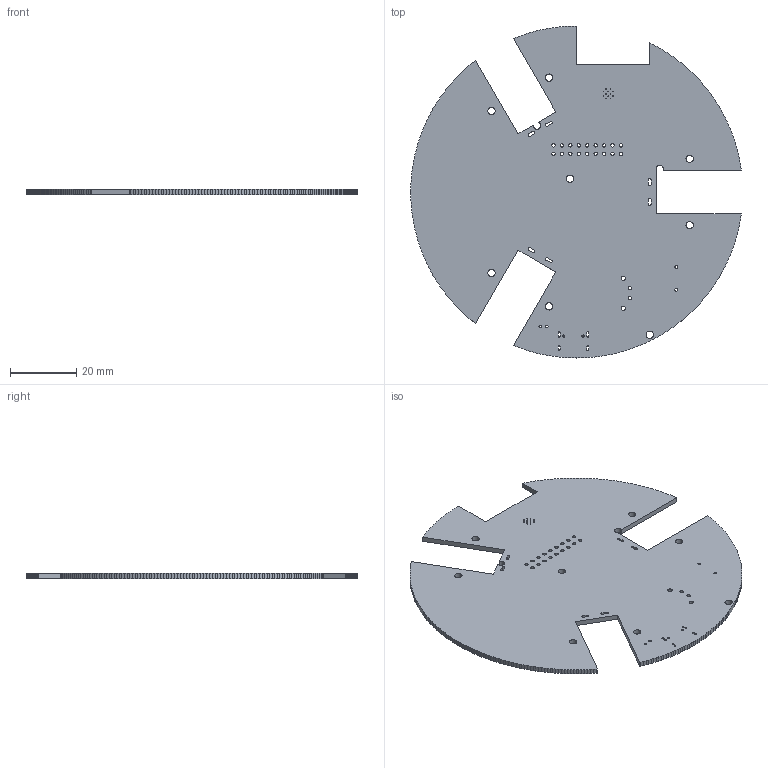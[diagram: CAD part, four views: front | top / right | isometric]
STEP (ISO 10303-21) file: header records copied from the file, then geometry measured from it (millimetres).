
FILE_DESCRIPTION(('KiCad electronic assembly'),'2;1');
FILE_NAME('PCB_chassis_fit.step','2026-11-03T18:39:05',('Pcbnew'),( 'Kicad'),'Open CASCADE STEP processor 7.6','KiCad to STEP converter' ,'Unknown');
FILE_SCHEMA(('AUTOMOTIVE_DESIGN { 1 0 10303 214 1 1 1 1 }'));
Length unit declared in the file: millimetre
Products named in the file (2): PCB_chassis_fit 1; omni_ugv_PCB
Assembly tree (1 placements, depth 2):
  PCB_chassis_fit 1
    omni_ugv_PCB
Bounding box: 99.56 x 100 x 1.51 mm (x, y, z)
Volume: 9878.9 mm3; surface area: 14119.3 mm2
Topology: 1 solids, 1 shells, 398 faces, 1188 edges, 792 vertices
Faces by surface type: plane 327, cylinder 71
Full cylindrical faces by diameter (mm): 0.2 x12, 0.65 x2, 0.75 x2, 0.9 x2, 1 x18, 1.02 x2, 1.27 x2, 2.2 x8
Entity records: 13503 total; most frequent: CARTESIAN_POINT 2380, ORIENTED_EDGE 2376, DIRECTION 2130, EDGE_CURVE 1188, LINE 1046, VECTOR 1046, VERTEX_POINT 792, AXIS2_PLACEMENT_3D 542
